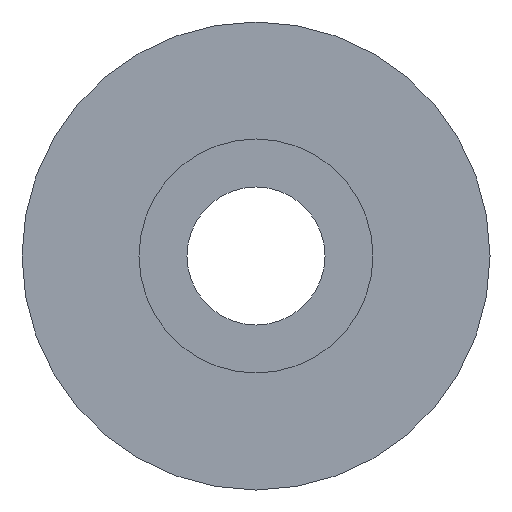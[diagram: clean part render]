
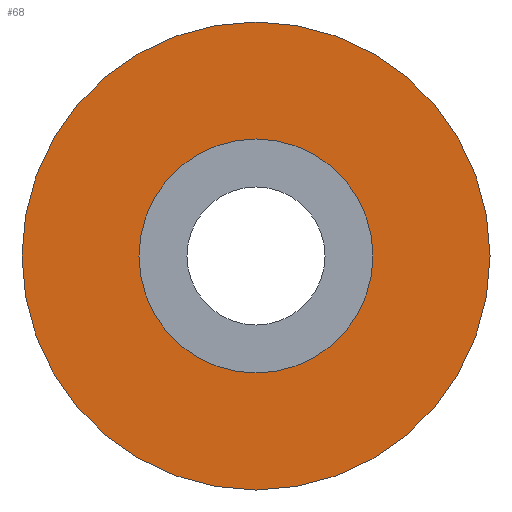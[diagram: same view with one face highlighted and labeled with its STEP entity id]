
A CAD part, front view. The second image highlights one B-rep face of the part: STEP entity #68.
In plain terms, the highlighted planar face has unit normal (0, -1, 0).
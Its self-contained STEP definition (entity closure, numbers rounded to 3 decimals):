
#15 = CARTESIAN_POINT ( 'NONE',  ( 0., 0., 20. ) ) ;
#20 = CARTESIAN_POINT ( 'NONE',  ( 0., 0., 0. ) ) ;
#27 = AXIS2_PLACEMENT_3D ( 'NONE', #141, #83, #216 ) ;
#28 = EDGE_CURVE ( 'NONE', #142, #142, #108, .T. ) ;
#34 = EDGE_LOOP ( 'NONE', ( #251 ) ) ;
#38 = PLANE ( 'NONE',  #114 ) ;
#60 = FACE_OUTER_BOUND ( 'NONE', #34, .T. ) ;
#63 = FACE_BOUND ( 'NONE', #178, .T. ) ;
#64 = DIRECTION ( 'NONE',  ( 0., 0., 1. ) ) ;
#68 = ADVANCED_FACE ( 'NONE', ( #63, #60 ), #38, .T. ) ;
#74 = VERTEX_POINT ( 'NONE', #15 ) ;
#83 = DIRECTION ( 'NONE',  ( 0., 1., 0. ) ) ;
#87 = DIRECTION ( 'NONE',  ( 0., 1., 0. ) ) ;
#103 = DIRECTION ( 'NONE',  ( 0., 0., -1. ) ) ;
#105 = CARTESIAN_POINT ( 'NONE',  ( -20., 0., 0. ) ) ;
#108 = CIRCLE ( 'NONE', #27, 10. ) ;
#110 = ORIENTED_EDGE ( 'NONE', *, *, #28, .T. ) ;
#114 = AXIS2_PLACEMENT_3D ( 'NONE', #105, #206, #103 ) ;
#137 = EDGE_CURVE ( 'NONE', #74, #74, #257, .T. ) ;
#141 = CARTESIAN_POINT ( 'NONE',  ( 0., 0., 0. ) ) ;
#142 = VERTEX_POINT ( 'NONE', #193 ) ;
#178 = EDGE_LOOP ( 'NONE', ( #110 ) ) ;
#193 = CARTESIAN_POINT ( 'NONE',  ( 0., 0., 10. ) ) ;
#206 = DIRECTION ( 'NONE',  ( 0., -1., 0. ) ) ;
#216 = DIRECTION ( 'NONE',  ( 0., 0., 1. ) ) ;
#250 = AXIS2_PLACEMENT_3D ( 'NONE', #20, #87, #64 ) ;
#251 = ORIENTED_EDGE ( 'NONE', *, *, #137, .F. ) ;
#257 = CIRCLE ( 'NONE', #250, 20. ) ;
